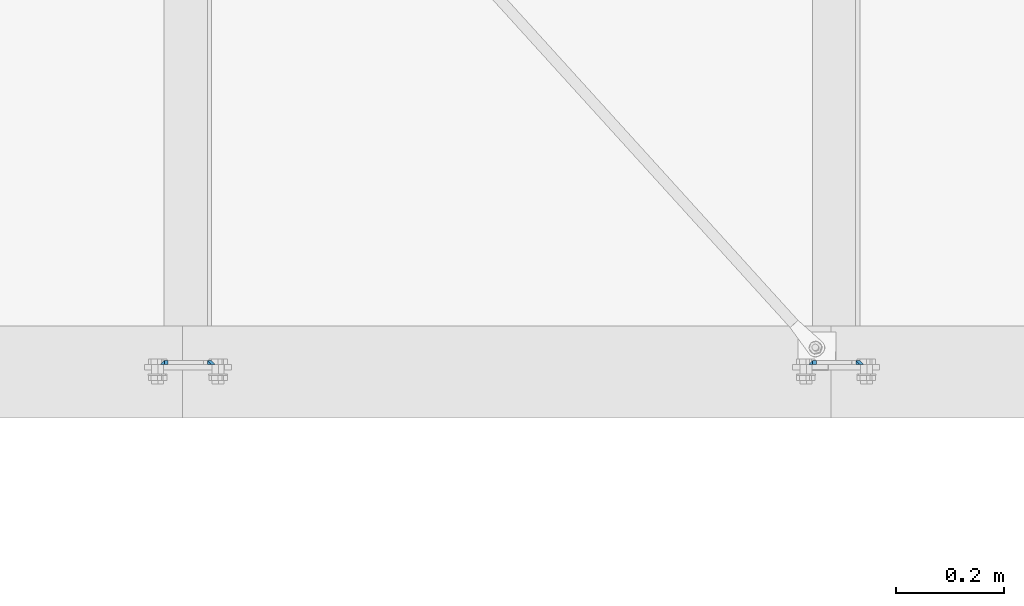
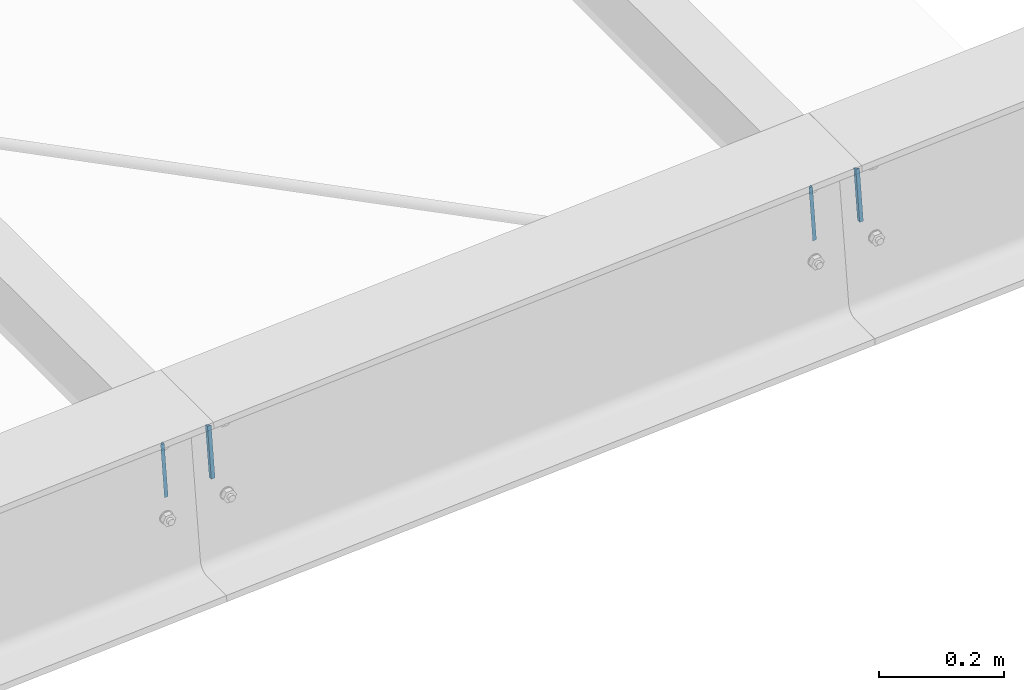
# One storey, part 12 of 72: 8 fasteners.
"""IFC4 building model written with IfcOpenShell, lengths in metres."""

from ifc_helpers import new_model, si_unit, frame, origin_with_axes, place, context, project, spatial, polyline, outline, extrude, type_object, element, save


model = new_model("IFC4")

# Units and contexts
model_context = context("Model", 3, precision=1e-05, world=origin_with_axes())
ifc_project = project(units=[si_unit("LENGTHUNIT", "METRE"), si_unit("AREAUNIT", "SQUARE_METRE"), si_unit("VOLUMEUNIT", "CUBIC_METRE"), si_unit("MASSUNIT", "GRAM", prefix="KILO"), si_unit("TIMEUNIT", "SECOND"), si_unit("PLANEANGLEUNIT", "RADIAN"), si_unit("SOLIDANGLEUNIT", "STERADIAN"), si_unit("THERMODYNAMICTEMPERATUREUNIT", "DEGREE_CELSIUS")], contexts=[model_context])

# Site, building, storey
placement_1 = place(None, origin_with_axes())
site = spatial("IfcSite", under=ifc_project, at=placement_1, Name="Italia", CompositionType="ELEMENT")
building = spatial("IfcBuilding", under=site, at=placement_1, Name="Pensilina", CompositionType="ELEMENT")
storey = spatial("IfcBuildingStorey", under=building, at=placement_1, Name="Storey 0", CompositionType="ELEMENT", Elevation=0.0)

# Fasteners
fastener_type_1 = type_object("IfcFastenerType", Name="Collegamento 0501_0502", PredefinedType="WELD")
placement_2 = place(placement_1, origin_with_axes())
fastener_1_placement = place(placement_2, origin_with_axes())
element("IfcFastener", 1, at=fastener_1_placement, inside=storey, type_object=fastener_type_1, Name="Collegamento 0501_0502", context=model_context, shape_type="SweptSolid", body=[
    extrude(outline(polyline([(0.0, 0.0, 0.0), (-0.00717336, 0.00695801, 0.0), (0.0, 0.00695801, 0.0), (0.0, 0.0, 0.0)])), frame((4.56938, 0.01395, 3.88724), z_axis=(-0.067318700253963, 0.0, 0.997731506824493), x_axis=(0.0, -1.0, 0.0)), (0.0, 0.0, 1.0), 0.1061),
])
fastener_type_2 = type_object("IfcFastenerType", Name="Collegamento 0501_0502", PredefinedType="WELD")
fastener_2_placement = place(placement_2, origin_with_axes())
element("IfcFastener", 2, at=fastener_2_placement, inside=storey, type_object=fastener_type_2, Name="Collegamento 0501_0502", context=model_context, shape_type="SweptSolid", body=[
    extrude(outline(polyline([(0.0, 0.0, 0.0), (0.00717336, -0.00695801, 0.0), (0.0, -0.00695801, 0.0), (0.0, 0.0, 0.0)])), frame((4.65584, 0.01395, 3.99941), z_axis=(0.067318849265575, 0.0, -0.997731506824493), x_axis=(0.0, 1.0, 0.0)), (0.0, 0.0, 1.0), 0.1061),
])
fastener_type_3 = type_object("IfcFastenerType", Name="Collegamento 0501_0502", PredefinedType="WELD")
fastener_3_placement = place(placement_2, origin_with_axes())
element("IfcFastener", 3, at=fastener_3_placement, inside=storey, type_object=fastener_type_3, Name="Collegamento 0501_0502", context=model_context, shape_type="SweptSolid", body=[
    extrude(outline(polyline([(0.0, 0.0, 0.0), (-0.00717336, 0.00695801, 0.0), (0.0, 0.00695801, 0.0), (0.0, 0.0, 0.0)])), frame((4.56938, 0.01395, 3.88724), z_axis=(-0.067318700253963, 0.0, 0.997731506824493), x_axis=(0.0, -1.0, 0.0)), (0.0, 0.0, 1.0), 0.1061),
])
fastener_type_4 = type_object("IfcFastenerType", Name="Collegamento 0501_0502", PredefinedType="WELD")
fastener_4_placement = place(placement_2, origin_with_axes())
element("IfcFastener", 4, at=fastener_4_placement, inside=storey, type_object=fastener_type_4, Name="Collegamento 0501_0502", context=model_context, shape_type="SweptSolid", body=[
    extrude(outline(polyline([(0.0, 0.0, 0.0), (0.00717336, -0.00695801, 0.0), (0.0, -0.00695801, 0.0), (0.0, 0.0, 0.0)])), frame((4.65584, 0.01395, 3.99941), z_axis=(0.067318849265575, 0.0, -0.997731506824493), x_axis=(0.0, 1.0, 0.0)), (0.0, 0.0, 1.0), 0.1061),
])
fastener_type_5 = type_object("IfcFastenerType", Name="Collegamento 0601_0602", PredefinedType="WELD")
fastener_5_placement = place(placement_2, origin_with_axes())
element("IfcFastener", 5, at=fastener_5_placement, inside=storey, type_object=fastener_type_5, Name="Collegamento 0601_0602", context=model_context, shape_type="SweptSolid", body=[
    extrude(outline(polyline([(0.0, 0.0, 0.0), (-0.00717336, 0.00695801, 0.0), (0.0, 0.00695801, 0.0), (0.0, 0.0, 0.0)])), frame((5.76658, 0.01395, 3.96949), z_axis=(-0.067314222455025, 0.0, 0.997731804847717), x_axis=(0.0, -1.0, 0.0)), (0.0, 0.0, 1.0), 0.1061),
])
fastener_type_6 = type_object("IfcFastenerType", Name="Collegamento 0601_0602", PredefinedType="WELD")
fastener_6_placement = place(placement_2, origin_with_axes())
element("IfcFastener", 6, at=fastener_6_placement, inside=storey, type_object=fastener_type_6, Name="Collegamento 0601_0602", context=model_context, shape_type="SweptSolid", body=[
    extrude(outline(polyline([(0.0, 0.0, 0.0), (0.00717336, -0.00695801, 0.0), (0.0, -0.00695801, 0.0), (0.0, 0.0, 0.0)])), frame((5.85304, 0.01395, 4.08167), z_axis=(0.067318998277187, 0.0, -0.997731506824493), x_axis=(0.0, 1.0, 0.0)), (0.0, 0.0, 1.0), 0.1061),
])
fastener_type_7 = type_object("IfcFastenerType", Name="Collegamento 0601_0602", PredefinedType="WELD")
fastener_7_placement = place(placement_2, origin_with_axes())
element("IfcFastener", 7, at=fastener_7_placement, inside=storey, type_object=fastener_type_7, Name="Collegamento 0601_0602", context=model_context, shape_type="SweptSolid", body=[
    extrude(outline(polyline([(0.0, 0.0, 0.0), (-0.00717336, 0.00695801, 0.0), (0.0, 0.00695801, 0.0), (0.0, 0.0, 0.0)])), frame((5.76658, 0.01395, 3.96949), z_axis=(-0.067314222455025, 0.0, 0.997731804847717), x_axis=(0.0, -1.0, 0.0)), (0.0, 0.0, 1.0), 0.1061),
])
fastener_type_8 = type_object("IfcFastenerType", Name="Collegamento 0601_0602", PredefinedType="WELD")
fastener_8_placement = place(placement_2, origin_with_axes())
element("IfcFastener", 8, at=fastener_8_placement, inside=storey, type_object=fastener_type_8, Name="Collegamento 0601_0602", context=model_context, shape_type="SweptSolid", body=[
    extrude(outline(polyline([(0.0, 0.0, 0.0), (0.00717336, -0.00695801, 0.0), (0.0, -0.00695801, 0.0), (0.0, 0.0, 0.0)])), frame((5.85304, 0.01395, 4.08167), z_axis=(0.067318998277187, 0.0, -0.997731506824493), x_axis=(0.0, 1.0, 0.0)), (0.0, 0.0, 1.0), 0.1061),
])

save(model, "model.ifc")
